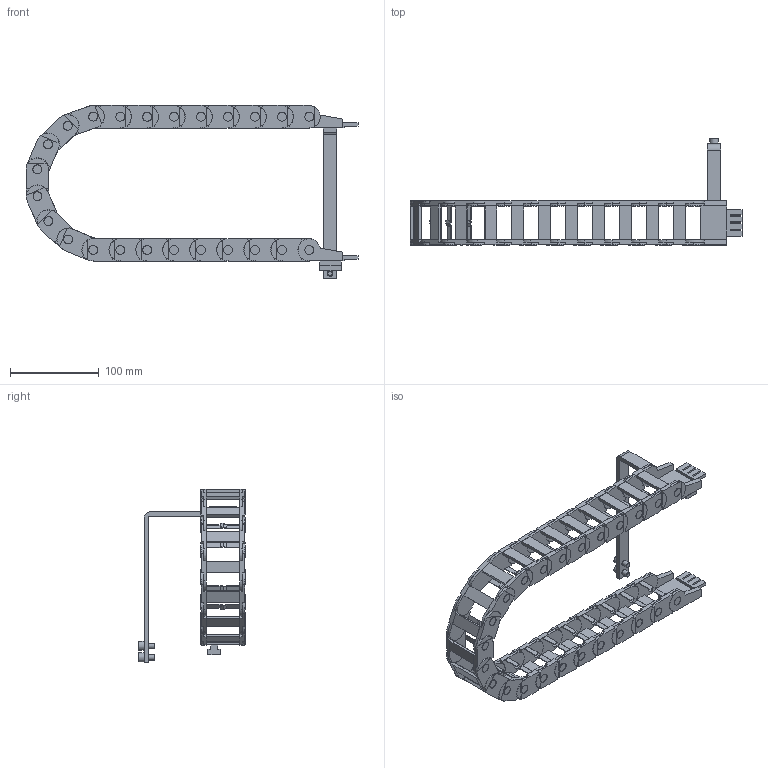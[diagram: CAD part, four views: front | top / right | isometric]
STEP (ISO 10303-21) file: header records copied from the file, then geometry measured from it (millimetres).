
FILE_DESCRIPTION( ( 'STEP AP214' ), '1' );
FILE_NAME( 'U:/Etudes/Top Solid/BIBLIO 3D AVM/STEP/N_ELECTRIQUE/Linéaires/Add_2008/8319425.step', '2008-10-07T13:24:49', ( ' ' ), ( ' ' ), 'XStep 1.0', ' ', ' ' );
FILE_SCHEMA( ( 'automotive_design' ) );
Length unit declared in the file: millimetre
Products named in the file (25): 1; 2; 3; 4; 5; 6; 7; 8; 9; 10; 11; 12; 13; 14; 15; 16; 17; 18; 19; 20; 21; 22; 23; 24; 25
Bounding box: 374.21 x 120 x 195.5 mm (x, y, z)
Volume: 289750 mm3; surface area: 215888.4 mm2
Topology: 25 solids, 25 shells, 1916 faces, 5419 edges, 3610 vertices
Faces by surface type: plane 1443, cylinder 471, cone 2
Full cylindrical faces by diameter (mm): 6 x4, 6.5 x2, 10 x2
Entity records: 77865 total; most frequent: CARTESIAN_POINT 11014, ORIENTED_EDGE 10806, DIRECTION 10595, EDGE_CURVE 5403, LINE 4089, VECTOR 4089, VERTEX_POINT 3604, AXIS2_PLACEMENT_3D 3253
